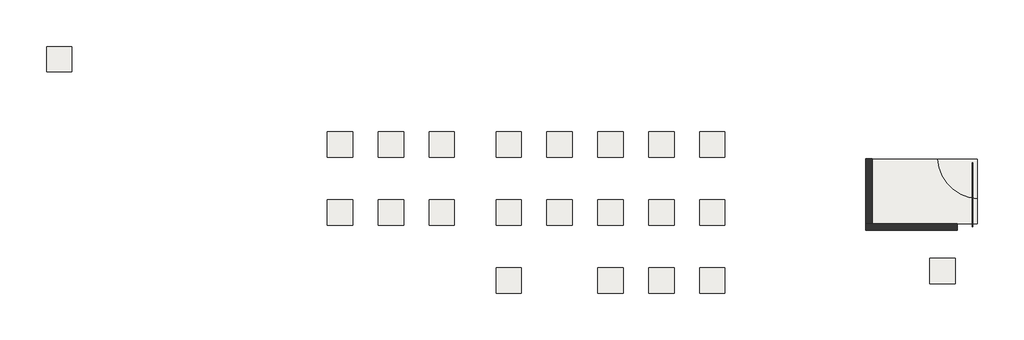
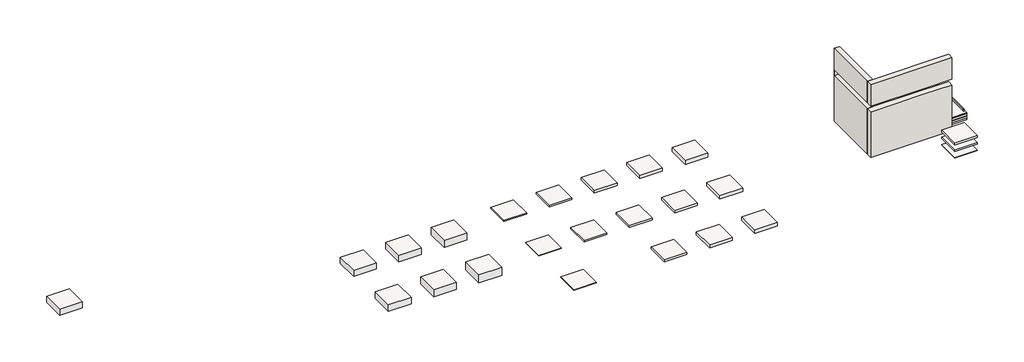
# One storey: 25 slabs, 2 walls, 1 beam.
"""IFC4 building model written with IfcOpenShell, lengths in millimetres."""

from ifc_helpers import new_model, si_unit, point, frame, frame_2d, origin, place, context, project, spatial, polyline, circle_curve, trimmed, segment, composite_curve, outline, extrude, faceted_brep, transform, mapped, element, save
from ifc_brep_helpers import plane_surface, revolved_surface, advanced_brep
from components import beam_a5dc1c18

model = new_model("IFC4")

# Units and contexts
model_context = context("Model", 3, world=origin())
ifc_project = project(units=[si_unit("LENGTHUNIT", "METRE", prefix="MILLI")], contexts=[model_context])

# Site, building, storey
site = spatial("IfcSite", under=ifc_project)
building = spatial("IfcBuilding", under=site)
storey = spatial("IfcBuildingStorey", under=building, Name="Этаж 1", Elevation=0.0)

# Beam
placement = place(None, origin())
beam_shape = beam_a5dc1c18(model_context)
element("IfcBeam", 1, ObjectType="Мерные пиломатериалы : 50х150 мм", at=placement, inside=storey, context=model_context, shape_type="MappedRepresentation", body=[
    mapped(beam_shape, transform((43167.721519, 1871.7721519, 387.0), x_axis=(0.0, -1.0, 0.0), y_axis=(1.0, 0.0, 0.0), z_axis=(0.0, 0.0, 1.0))),
])

# Slabs
element("IfcSlab", 2, ObjectType="Пол по ж/б стяжке на бетонной плите 414мм (Изоляция ЭКОВЕР СТЭП ОПТИМА 100мм)", at=placement, inside=storey, context=model_context, shape_type="SweptSolid", body=[
    extrude(outline(polyline([(6615.16299, 4075.2600032), (5115.16299, 4075.2600032), (5115.16299, 5575.2600032), (6615.16299, 5575.2600032), (6615.16299, 4075.2600032)])), frame((0.0, 0.0, -414.0), z_axis=(0.0, 0.0, 1.0), x_axis=(1.0, 0.0, 0.0)), (0.0, 0.0, 1.0), 414.0),
])
element("IfcSlab", 3, ObjectType="Утеплитель 40мм (ЭКОВЕР СТЭП ОПТИМА)", at=placement, inside=storey, context=model_context, shape_type="SweptSolid", body=[
    extrude(outline(polyline([(16566.9918196, 4065.4079035), (15066.9918196, 4065.4079035), (15066.9918196, 5565.4079035), (16566.9918196, 5565.4079035), (16566.9918196, 4065.4079035)])), frame((0.0, 0.0, -40.0), z_axis=(0.0, 0.0, 1.0), x_axis=(1.0, 0.0, 0.0)), (0.0, 0.0, 1.0), 40.0),
])
element("IfcSlab", 4, ObjectType="Утеплитель 100мм (ЭКОВЕР СТЭП ОПТИМА)", at=placement, inside=storey, context=model_context, shape_type="SweptSolid", body=[
    extrude(outline(polyline([(19566.9918196, 4065.4079035), (18066.9918196, 4065.4079035), (18066.9918196, 5565.4079035), (19566.9918196, 5565.4079035), (19566.9918196, 4065.4079035)])), frame((0.0, 0.0, -100.0), z_axis=(0.0, 0.0, 1.0), x_axis=(1.0, 0.0, 0.0)), (0.0, 0.0, 1.0), 100.0),
])
element("IfcSlab", 5, ObjectType="Утеплитель 150мм (ЭКОВЕР СТЭП ОПТИМА)", at=placement, inside=storey, context=model_context, shape_type="SweptSolid", body=[
    extrude(outline(polyline([(22566.9918196, 4065.4079035), (21066.9918196, 4065.4079035), (21066.9918196, 5565.4079035), (22566.9918196, 5565.4079035), (22566.9918196, 4065.4079035)])), frame((0.0, 0.0, -150.0), z_axis=(0.0, 0.0, 1.0), x_axis=(1.0, 0.0, 0.0)), (0.0, 0.0, 1.0), 150.0),
])
element("IfcSlab", 6, ObjectType="Утеплитель 200мм (ЭКОВЕР СТЭП ОПТИМА)", at=placement, inside=storey, context=model_context, shape_type="SweptSolid", body=[
    extrude(outline(polyline([(25566.9918196, 4065.4079035), (24066.9918196, 4065.4079035), (24066.9918196, 5565.4079035), (25566.9918196, 5565.4079035), (25566.9918196, 4065.4079035)])), frame((0.0, 0.0, -200.0), z_axis=(0.0, 0.0, 1.0), x_axis=(1.0, 0.0, 0.0)), (0.0, 0.0, 1.0), 200.0),
])
element("IfcSlab", 7, ObjectType="Утеплитель 250мм (ЭКОВЕР СТЭП ОПТИМА)", at=placement, inside=storey, context=model_context, shape_type="SweptSolid", body=[
    extrude(outline(polyline([(28566.9918196, 4065.4079035), (27066.9918196, 4065.4079035), (27066.9918196, 5565.4079035), (28566.9918196, 5565.4079035), (28566.9918196, 4065.4079035)])), frame((0.0, 0.0, -250.0), z_axis=(0.0, 0.0, 1.0), x_axis=(1.0, 0.0, 0.0)), (0.0, 0.0, 1.0), 250.0),
])
element("IfcSlab", 8, ObjectType="Утеплитель 40мм (ЭКОВЕР СТЭП)", at=placement, inside=storey, context=model_context, shape_type="SweptSolid", body=[
    extrude(outline(polyline([(16566.9918196, 65.4079035), (15066.9918196, 65.4079035), (15066.9918196, 1565.4079035), (16566.9918196, 1565.4079035), (16566.9918196, 65.4079035)])), frame((0.0, 0.0, -40.0), z_axis=(0.0, 0.0, 1.0), x_axis=(1.0, 0.0, 0.0)), (0.0, 0.0, 1.0), 40.0),
])
element("IfcSlab", 9, ObjectType="Утеплитель 100мм (ЭКОВЕР СТЭП)", at=placement, inside=storey, context=model_context, shape_type="SweptSolid", body=[
    extrude(outline(polyline([(19566.9918196, 65.4079035), (18066.9918196, 65.4079035), (18066.9918196, 1565.4079035), (19566.9918196, 1565.4079035), (19566.9918196, 65.4079035)])), frame((0.0, 0.0, -100.0), z_axis=(0.0, 0.0, 1.0), x_axis=(1.0, 0.0, 0.0)), (0.0, 0.0, 1.0), 100.0),
])
element("IfcSlab", 10, ObjectType="Утеплитель 150мм (ЭКОВЕР СТЭП)", at=placement, inside=storey, context=model_context, shape_type="SweptSolid", body=[
    extrude(outline(polyline([(22566.9918196, 65.4079035), (21066.9918196, 65.4079035), (21066.9918196, 1565.4079035), (22566.9918196, 1565.4079035), (22566.9918196, 65.4079035)])), frame((0.0, 0.0, -150.0), z_axis=(0.0, 0.0, 1.0), x_axis=(1.0, 0.0, 0.0)), (0.0, 0.0, 1.0), 150.0),
])
element("IfcSlab", 11, ObjectType="Утеплитель 200мм (ЭКОВЕР СТЭП)", at=placement, inside=storey, context=model_context, shape_type="SweptSolid", body=[
    extrude(outline(polyline([(25566.9918196, 65.4079035), (24066.9918196, 65.4079035), (24066.9918196, 1565.4079035), (25566.9918196, 1565.4079035), (25566.9918196, 65.4079035)])), frame((0.0, 0.0, -200.0), z_axis=(0.0, 0.0, 1.0), x_axis=(1.0, 0.0, 0.0)), (0.0, 0.0, 1.0), 200.0),
])
element("IfcSlab", 12, ObjectType="Утеплитель 250мм (ЭКОВЕР СТЭП)", at=placement, inside=storey, context=model_context, shape_type="SweptSolid", body=[
    extrude(outline(polyline([(28566.9918196, 65.4079035), (27066.9918196, 65.4079035), (27066.9918196, 1565.4079035), (28566.9918196, 1565.4079035), (28566.9918196, 65.4079035)])), frame((0.0, 0.0, -250.0), z_axis=(0.0, 0.0, 1.0), x_axis=(1.0, 0.0, 0.0)), (0.0, 0.0, 1.0), 250.0),
])
element("IfcSlab", 13, ObjectType="Утеплитель 40мм (ЭКОВЕР СТЭП ПЛЮС)", at=placement, inside=storey, context=model_context, shape_type="SweptSolid", body=[
    extrude(outline(polyline([(16566.9918196, -3934.5920965), (15066.9918196, -3934.5920965), (15066.9918196, -2434.5920965), (16566.9918196, -2434.5920965), (16566.9918196, -3934.5920965)])), frame((0.0, 0.0, -40.0), z_axis=(0.0, 0.0, 1.0), x_axis=(1.0, 0.0, 0.0)), (0.0, 0.0, 1.0), 40.0),
])
element("IfcSlab", 14, ObjectType="Утеплитель 150мм (ЭКОВЕР СТЭП ПЛЮС)", at=placement, inside=storey, context=model_context, shape_type="SweptSolid", body=[
    extrude(outline(polyline([(22566.9918196, -3934.5920965), (21066.9918196, -3934.5920965), (21066.9918196, -2434.5920965), (22566.9918196, -2434.5920965), (22566.9918196, -3934.5920965)])), frame((0.0, 0.0, -150.0), z_axis=(0.0, 0.0, 1.0), x_axis=(1.0, 0.0, 0.0)), (0.0, 0.0, 1.0), 150.0),
])
element("IfcSlab", 15, ObjectType="Утеплитель 200мм (ЭКОВЕР СТЭП ПЛЮС)", at=placement, inside=storey, context=model_context, shape_type="SweptSolid", body=[
    extrude(outline(polyline([(25566.9918196, -3934.5920965), (24066.9918196, -3934.5920965), (24066.9918196, -2434.5920965), (25566.9918196, -2434.5920965), (25566.9918196, -3934.5920965)])), frame((0.0, 0.0, -200.0), z_axis=(0.0, 0.0, 1.0), x_axis=(1.0, 0.0, 0.0)), (0.0, 0.0, 1.0), 200.0),
])
element("IfcSlab", 16, ObjectType="Утеплитель 250мм (ЭКОВЕР СТЭП ПЛЮС)", at=placement, inside=storey, context=model_context, shape_type="SweptSolid", body=[
    extrude(outline(polyline([(28566.9918196, -3934.5920965), (27066.9918196, -3934.5920965), (27066.9918196, -2434.5920965), (28566.9918196, -2434.5920965), (28566.9918196, -3934.5920965)])), frame((0.0, 0.0, -250.0), z_axis=(0.0, 0.0, 1.0), x_axis=(1.0, 0.0, 0.0)), (0.0, 0.0, 1.0), 250.0),
])
element("IfcSlab", 17, ObjectType="Пол по ж/б стяжке на бетонной плите 414мм (Изоляция ЭКОВЕР СТЭП ОПТИМА 100мм)", at=placement, inside=storey, context=model_context, shape_type="SweptSolid", body=[
    extrude(outline(polyline([(-9943.9642932, 9103.7171322), (-11443.9642932, 9103.7171322), (-11443.9642932, 10603.7171322), (-9943.9642932, 10603.7171322), (-9943.9642932, 9103.7171322)])), frame((0.0, 0.0, -414.0), z_axis=(0.0, 0.0, 1.0), x_axis=(1.0, 0.0, 0.0)), (0.0, 0.0, 1.0), 414.0),
])
element("IfcSlab", 18, ObjectType="Утеплитель 40мм (ЭКОВЕР СТЭП)", at=placement, inside=storey, context=model_context, shape_type="SweptSolid", body=[
    extrude(outline(polyline([(42134.4156835, -1873.1276378), (42134.4156835, -3373.1276378), (40634.4156835, -3373.1276378), (40634.4156835, -1873.1276378), (42134.4156835, -1873.1276378)])), frame((0.0, 0.0, -40.0), z_axis=(0.0, 0.0, 1.0), x_axis=(1.0, 0.0, 0.0)), (0.0, 0.0, 1.0), 40.0),
])
element("IfcSlab", 19, ObjectType="Утеплитель 100мм (ЭКОВЕР СТЭП ОПТИМА)", at=placement, inside=storey, context=model_context, shape_type="SweptSolid", body=[
    extrude(outline(polyline([(42134.4156835, -1873.1276378), (42134.4156835, -3373.1276378), (40634.4156835, -3373.1276378), (40634.4156835, -1873.1276378), (42134.4156835, -1873.1276378)])), frame((0.0, 0.0, 400.0), z_axis=(0.0, 0.0, 1.0), x_axis=(1.0, 0.0, 0.0)), (0.0, 0.0, 1.0), 100.0),
])
element("IfcSlab", 20, ObjectType="Утеплитель 150мм (ЭКОВЕР СТЭП ПЛЮС)", at=placement, inside=storey, context=model_context, shape_type="SweptSolid", body=[
    extrude(outline(polyline([(42134.4156835, -1873.1276378), (42134.4156835, -3373.1276378), (40634.4156835, -3373.1276378), (40634.4156835, -1873.1276378), (42134.4156835, -1873.1276378)])), frame((0.0, 0.0, 850.0), z_axis=(0.0, 0.0, 1.0), x_axis=(1.0, 0.0, 0.0)), (0.0, 0.0, 1.0), 150.0),
])
element("IfcSlab", 21, ObjectType="Пол по ж/б стяжке на бетонной плите 464мм (Изоляция ЭКОВЕР СТЭП 150мм)", at=placement, inside=storey, context=model_context, shape_type="SweptSolid", body=[
    extrude(outline(polyline([(9615.16299, 4075.2600032), (8115.16299, 4075.2600032), (8115.16299, 5575.2600032), (9615.16299, 5575.2600032), (9615.16299, 4075.2600032)])), frame((0.0, 0.0, -464.0), z_axis=(0.0, 0.0, 1.0), x_axis=(1.0, 0.0, 0.0)), (0.0, 0.0, 1.0), 464.0),
])
element("IfcSlab", 22, ObjectType="Пол по ж/б стяжке на бетонной плите 514мм (Изоляция ЭКОВЕР СТЭП ПЛЮС 200мм)", at=placement, inside=storey, context=model_context, shape_type="SweptSolid", body=[
    extrude(outline(polyline([(12615.16299, 4075.2600032), (11115.16299, 4075.2600032), (11115.16299, 5575.2600032), (12615.16299, 5575.2600032), (12615.16299, 4075.2600032)])), frame((0.0, 0.0, -514.0), z_axis=(0.0, 0.0, 1.0), x_axis=(1.0, 0.0, 0.0)), (0.0, 0.0, 1.0), 514.0),
])
element("IfcSlab", 23, ObjectType="Пол по грунту 444мм (Изоляция ЭКОВЕР СТЭП ОПТИМА 100мм)", at=placement, inside=storey, context=model_context, shape_type="SweptSolid", body=[
    extrude(outline(polyline([(6615.16299, 75.2600032), (5115.16299, 75.2600032), (5115.16299, 1575.2600032), (6615.16299, 1575.2600032), (6615.16299, 75.2600032)])), frame((0.0, 0.0, -444.0), z_axis=(0.0, 0.0, 1.0), x_axis=(1.0, 0.0, 0.0)), (0.0, 0.0, 1.0), 444.0),
])
element("IfcSlab", 24, ObjectType="Пол по грунту 494мм (Изоляция ЭКОВЕР СТЭП 150мм)", at=placement, inside=storey, context=model_context, shape_type="SweptSolid", body=[
    extrude(outline(polyline([(9615.16299, 75.2600032), (8115.16299, 75.2600032), (8115.16299, 1575.2600032), (9615.16299, 1575.2600032), (9615.16299, 75.2600032)])), frame((0.0, 0.0, -494.0), z_axis=(0.0, 0.0, 1.0), x_axis=(1.0, 0.0, 0.0)), (0.0, 0.0, 1.0), 494.0),
])
element("IfcSlab", 25, ObjectType="Пол по грунту 544мм (Изоляция ЭКОВЕР СТЭП ПЛЮС 200мм)", at=placement, inside=storey, context=model_context, shape_type="SweptSolid", body=[
    extrude(outline(polyline([(12615.16299, 75.2600032), (11115.16299, 75.2600032), (11115.16299, 1575.2600032), (12615.16299, 1575.2600032), (12615.16299, 75.2600032)])), frame((0.0, 0.0, -544.0), z_axis=(0.0, 0.0, 1.0), x_axis=(1.0, 0.0, 0.0)), (0.0, 0.0, 1.0), 544.0),
])
element("IfcSlab", 26, ObjectType="Пол по грунту 494мм (Изоляция ЭКОВЕР СТЭП 150мм)", at=placement, inside=storey, context=model_context, shape_type="SolidModel", body=[
    extrude(outline(composite_curve([segment(polyline([(41114.7709945, 3961.7721519), (43457.721519, 3961.7721519), (43457.721519, 1618.8216274)]), True, "CONTINUOUS"), segment(trimmed(circle_curve(frame_2d((43610.121519, 4114.1721519)), 2500.0), [point((43457.721519, 1618.8216274))], [point((41114.7709945, 3961.7721519))], False, "CARTESIAN"), True, "CONTINUOUS")], self_intersect=False)), frame((0.0, 0.0, -20.0), z_axis=(0.0, 0.0, 1.0), x_axis=(1.0, 0.0, 0.0)), (0.0, 0.0, 1.0), 20.0),
    advanced_brep(
    [(43457.721519, 1618.8216274, -20.0), (41114.7709945, 3961.7721519, -20.0), (41114.7709945, 3961.7721519, 0.0), (43457.721519, 1618.8216274, 0.0), (37257.721519, 3961.7721519, -20.0), (40397.721519, 3961.7721519, -20.0), (43457.721519, 161.7721519, -20.0), (37257.721519, 161.7721519, -20.0), (37257.721519, 3961.7721519, 0.0), (37257.721519, 161.7721519, 0.0), (43457.721519, 161.7721519, 0.0), (40397.721519, 3961.7721519, 0.0)],
    [
        (0, 1, circle_curve(frame((43610.121519, 4114.1721519, -20.0), z_axis=(0.0, 0.0, -1.0), x_axis=(0.0, -1.0, 0.0)), 2500.0)),
        (1, 2),
        (2, 3, circle_curve(frame((43610.121519, 4114.1721519, 0.0), z_axis=(0.0, 0.0, 1.0), x_axis=(0.0, -1.0, 0.0)), 2500.0)),
        (3, 0),
        (4, 5),
        (5, 1),
        (0, 6),
        (6, 7),
        (7, 4),
        (8, 9),
        (9, 10),
        (10, 3),
        (2, 11),
        (11, 8),
        (4, 8),
        (10, 6),
        (9, 7),
    ],
    [
        revolved_surface(polyline([(43610.121519, 1614.1721519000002, 0.0), (43610.121519, 1614.1721519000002, -20.0)]), (43610.121519, 4114.1721519, 304.8), (0.0, 0.0, 1.0)),
        plane_surface(frame((36877.721519, 3961.7721519, -20.0), z_axis=(0.0, 0.0, -1.0), x_axis=(-1.0, 0.0, 0.0))),
        plane_surface(frame((36877.721519, 3961.7721519, 0.0), z_axis=(0.0, 0.0, 1.0), x_axis=(-1.0, 0.0, 0.0))),
        plane_surface(frame((40397.721519, 3961.7721519, -494.0), z_axis=(0.0, 1.0, 0.0), x_axis=(0.0, 0.0, 1.0))),
        plane_surface(frame((43457.721519, 3961.7721519, -494.0), z_axis=(1.0, 0.0, 0.0), x_axis=(0.0, 0.0, 1.0))),
        plane_surface(frame((43457.721519, 161.7721519, -494.0), z_axis=(0.0, -1.0, 0.0), x_axis=(0.0, 0.0, 1.0))),
        plane_surface(frame((37257.721519, 161.7721519, -494.0), z_axis=(-1.0, 0.0, 0.0), x_axis=(0.0, 0.0, 1.0))),
    ],
    [
        (0, [[1, 2, 3, 4]]),
        (1, [[5, 6, -1, 7, 8, 9]]),
        (2, [[10, 11, 12, -3, 13, 14]]),
        (3, [[-5, 15, -14, -13, -2, -6]]),
        (4, [[16, -7, -4, -12]]),
        (5, [[-8, -16, -11, 17]]),
        (6, [[-9, -17, -10, -15]]),
    ],
),
    extrude(outline(composite_curve([segment(polyline([(41615.9364122, 3961.7721519), (43457.721519, 3961.7721519), (43457.721519, 2119.9870451)]), True, "CONTINUOUS"), segment(trimmed(circle_curve(frame_2d((43610.121519, 4114.1721519)), 2000.0), [point((43457.721519, 2119.9870451))], [point((41615.9364122, 3961.7721519))], False, "CARTESIAN"), True, "CONTINUOUS")], self_intersect=False)), frame((0.0, 0.0, -64.0), z_axis=(0.0, 0.0, 1.0), x_axis=(1.0, 0.0, 0.0)), (0.0, 0.0, 1.0), 40.0),
    advanced_brep(
    [(43457.721519, 2119.9870451, -64.0), (41615.9364122, 3961.7721519, -64.0), (41615.9364122, 3961.7721519, -24.0), (43457.721519, 2119.9870451, -24.0), (37257.721519, 3961.7721519, -64.0), (40397.721519, 3961.7721519, -64.0), (43457.721519, 161.7721519, -64.0), (37257.721519, 161.7721519, -64.0), (37257.721519, 3961.7721519, -24.0), (40397.721519, 3961.7721519, -24.0), (43457.721519, 161.7721519, -24.0), (37257.721519, 161.7721519, -24.0)],
    [
        (0, 1, circle_curve(frame((43610.121519, 4114.1721519, -64.0), z_axis=(0.0, 0.0, -1.0), x_axis=(0.0, -1.0, 0.0)), 2000.0)),
        (1, 2),
        (2, 3, circle_curve(frame((43610.121519, 4114.1721519, -24.0), z_axis=(0.0, 0.0, 1.0), x_axis=(0.0, -1.0, 0.0)), 2000.0)),
        (3, 0),
        (4, 5),
        (5, 1),
        (0, 6),
        (6, 7),
        (7, 4),
        (4, 8),
        (8, 9),
        (9, 2),
        (10, 6),
        (3, 10),
        (10, 11),
        (11, 7),
        (11, 8),
    ],
    [
        revolved_surface(polyline([(43610.121519, 2114.1721519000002, -24.0), (43610.121519, 2114.1721519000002, -64.0)]), (43610.121519, 4114.1721519, 280.8), (0.0, 0.0, 1.0)),
        plane_surface(frame((36877.721519, 3961.7721519, -64.0), z_axis=(0.0, 0.0, -1.0), x_axis=(-1.0, 0.0, 0.0))),
        plane_surface(frame((40397.721519, 3961.7721519, -494.0), z_axis=(0.0, 1.0, 0.0), x_axis=(0.0, 0.0, 1.0))),
        plane_surface(frame((43457.721519, 3961.7721519, -494.0), z_axis=(1.0, 0.0, 0.0), x_axis=(0.0, 0.0, 1.0))),
        plane_surface(frame((43457.721519, 161.7721519, -494.0), z_axis=(0.0, -1.0, 0.0), x_axis=(0.0, 0.0, 1.0))),
        plane_surface(frame((37257.721519, 161.7721519, -494.0), z_axis=(-1.0, 0.0, 0.0), x_axis=(0.0, 0.0, 1.0))),
        plane_surface(frame((36877.721519, 3961.7721519, -24.0), z_axis=(0.0, 0.0, 1.0), x_axis=(-1.0, 0.0, 0.0))),
    ],
    [
        (0, [[1, 2, 3, 4]]),
        (1, [[5, 6, -1, 7, 8, 9]]),
        (2, [[-5, 10, 11, 12, -2, -6]]),
        (3, [[13, -7, -4, 14]]),
        (4, [[-8, -13, 15, 16]]),
        (5, [[-9, -16, 17, -10]]),
        (6, [[-11, -17, -15, -14, -3, -12]]),
    ],
),
    faceted_brep([(43457.721519, 3961.7721519, -494.0), (40397.721519, 3961.7721519, -494.0), (37257.721519, 3961.7721519, -494.0), (37257.721519, 3961.7721519, -394.0), (40397.721519, 3961.7721519, -394.0), (43457.721519, 3961.7721519, -394.0), (43457.721519, 161.7721519, -494.0), (43457.721519, 161.7721519, -394.0), (37257.721519, 161.7721519, -494.0), (37257.721519, 161.7721519, -394.0)], [[[0, 1, 2, 3, 4, 5]], [[6, 0, 5, 7]], [[8, 6, 7, 9]], [[2, 8, 9, 3]], [[4, 3, 9, 7, 5]], [[2, 1, 0, 6, 8]]]),
    extrude(outline(composite_curve([segment(polyline([(41295.1324823, 3961.7721519), (43457.721519, 3961.7721519), (43457.721519, 1799.1831152)]), True, "CONTINUOUS"), segment(trimmed(circle_curve(frame_2d((43610.121519, 4114.1721519)), 2320.0), [point((43457.721519, 1799.1831152))], [point((41295.1324823, 3961.7721519))], False, "CARTESIAN"), True, "CONTINUOUS")], self_intersect=False)), frame((0.0, 0.0, -24.0), z_axis=(0.0, 0.0, 1.0), x_axis=(1.0, 0.0, 0.0)), (0.0, 0.0, 1.0), 4.0),
    advanced_brep(
    [(43457.721519, 1799.1831152, -24.0), (41295.1324823, 3961.7721519, -24.0), (41295.1324823, 3961.7721519, -20.0), (43457.721519, 1799.1831152, -20.0), (37257.721519, 3961.7721519, -24.0), (40397.721519, 3961.7721519, -24.0), (43457.721519, 161.7721519, -24.0), (37257.721519, 161.7721519, -24.0), (37257.721519, 3961.7721519, -20.0), (40397.721519, 3961.7721519, -20.0), (43457.721519, 161.7721519, -20.0), (37257.721519, 161.7721519, -20.0)],
    [
        (0, 1, circle_curve(frame((43610.121519, 4114.1721519, -24.0), z_axis=(0.0, 0.0, -1.0), x_axis=(0.0, -1.0, 0.0)), 2320.0)),
        (1, 2),
        (2, 3, circle_curve(frame((43610.121519, 4114.1721519, -20.0), z_axis=(0.0, 0.0, 1.0), x_axis=(0.0, -1.0, 0.0)), 2320.0)),
        (3, 0),
        (4, 5),
        (5, 1),
        (0, 6),
        (6, 7),
        (7, 4),
        (4, 8),
        (8, 9),
        (9, 2),
        (10, 6),
        (3, 10),
        (10, 11),
        (11, 7),
        (11, 8),
    ],
    [
        revolved_surface(polyline([(43610.121519, 1794.1721519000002, -20.0), (43610.121519, 1794.1721519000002, -24.0)]), (43610.121519, 4114.1721519, 284.8), (0.0, 0.0, 1.0)),
        plane_surface(frame((36877.721519, 3961.7721519, -24.0), z_axis=(0.0, 0.0, -1.0), x_axis=(-1.0, 0.0, 0.0))),
        plane_surface(frame((40397.721519, 3961.7721519, -494.0), z_axis=(0.0, 1.0, 0.0), x_axis=(0.0, 0.0, 1.0))),
        plane_surface(frame((43457.721519, 3961.7721519, -494.0), z_axis=(1.0, 0.0, 0.0), x_axis=(0.0, 0.0, 1.0))),
        plane_surface(frame((43457.721519, 161.7721519, -494.0), z_axis=(0.0, -1.0, 0.0), x_axis=(0.0, 0.0, 1.0))),
        plane_surface(frame((37257.721519, 161.7721519, -494.0), z_axis=(-1.0, 0.0, 0.0), x_axis=(0.0, 0.0, 1.0))),
        plane_surface(frame((36877.721519, 3961.7721519, -20.0), z_axis=(0.0, 0.0, 1.0), x_axis=(-1.0, 0.0, 0.0))),
    ],
    [
        (0, [[1, 2, 3, 4]]),
        (1, [[5, 6, -1, 7, 8, 9]]),
        (2, [[-5, 10, 11, 12, -2, -6]]),
        (3, [[13, -7, -4, 14]]),
        (4, [[-8, -13, 15, 16]]),
        (5, [[-9, -16, 17, -10]]),
        (6, [[-11, -17, -15, -14, -3, -12]]),
    ],
),
    extrude(outline(composite_curve([segment(polyline([(41816.5847226, 3961.7721519), (43457.721519, 3961.7721519), (43457.721519, 2320.6353555)]), True, "CONTINUOUS"), segment(trimmed(circle_curve(frame_2d((43610.121519, 4114.1721519)), 1800.0), [point((43457.721519, 2320.6353555))], [point((41816.5847226, 3961.7721519))], False, "CARTESIAN"), True, "CONTINUOUS")], self_intersect=False)), frame((0.0, 0.0, -214.0), z_axis=(0.0, 0.0, 1.0), x_axis=(1.0, 0.0, 0.0)), (0.0, 0.0, 1.0), 150.0),
    advanced_brep(
    [(43457.721519, 2320.6353555, -214.0), (41816.5847226, 3961.7721519, -214.0), (41816.5847226, 3961.7721519, -64.0), (43457.721519, 2320.6353555, -64.0), (37257.721519, 3961.7721519, -214.0), (40397.721519, 3961.7721519, -214.0), (43457.721519, 161.7721519, -214.0), (37257.721519, 161.7721519, -214.0), (37257.721519, 3961.7721519, -64.0), (40397.721519, 3961.7721519, -64.0), (43457.721519, 161.7721519, -64.0), (37257.721519, 161.7721519, -64.0)],
    [
        (0, 1, circle_curve(frame((43610.121519, 4114.1721519, -214.0), z_axis=(0.0, 0.0, -1.0), x_axis=(0.0, -1.0, 0.0)), 1800.0)),
        (1, 2),
        (2, 3, circle_curve(frame((43610.121519, 4114.1721519, -64.0), z_axis=(0.0, 0.0, 1.0), x_axis=(0.0, -1.0, 0.0)), 1800.0)),
        (3, 0),
        (4, 5),
        (5, 1),
        (0, 6),
        (6, 7),
        (7, 4),
        (4, 8),
        (8, 9),
        (9, 2),
        (10, 6),
        (3, 10),
        (10, 11),
        (11, 7),
        (11, 8),
    ],
    [
        revolved_surface(polyline([(43610.121519, 2314.1721519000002, -64.0), (43610.121519, 2314.1721519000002, -214.0)]), (43610.121519, 4114.1721519, 240.8), (0.0, 0.0, 1.0)),
        plane_surface(frame((36877.721519, 3961.7721519, -214.0), z_axis=(0.0, 0.0, -1.0), x_axis=(-1.0, 0.0, 0.0))),
        plane_surface(frame((40397.721519, 3961.7721519, -494.0), z_axis=(0.0, 1.0, 0.0), x_axis=(0.0, 0.0, 1.0))),
        plane_surface(frame((43457.721519, 3961.7721519, -494.0), z_axis=(1.0, 0.0, 0.0), x_axis=(0.0, 0.0, 1.0))),
        plane_surface(frame((43457.721519, 161.7721519, -494.0), z_axis=(0.0, -1.0, 0.0), x_axis=(0.0, 0.0, 1.0))),
        plane_surface(frame((37257.721519, 161.7721519, -494.0), z_axis=(-1.0, 0.0, 0.0), x_axis=(0.0, 0.0, 1.0))),
        plane_surface(frame((36877.721519, 3961.7721519, -64.0), z_axis=(0.0, 0.0, 1.0), x_axis=(-1.0, 0.0, 0.0))),
    ],
    [
        (0, [[1, 2, 3, 4]]),
        (1, [[5, 6, -1, 7, 8, 9]]),
        (2, [[-5, 10, 11, 12, -2, -6]]),
        (3, [[13, -7, -4, 14]]),
        (4, [[-8, -13, 15, 16]]),
        (5, [[-9, -16, 17, -10]]),
        (6, [[-11, -17, -15, -14, -3, -12]]),
    ],
),
    extrude(outline(composite_curve([segment(polyline([(41997.3058941, 3961.7721519), (43457.721519, 3961.7721519), (43457.721519, 2501.356527)]), True, "CONTINUOUS"), segment(trimmed(circle_curve(frame_2d((43610.121519, 4114.1721519)), 1620.0), [point((43457.721519, 2501.356527))], [point((41997.3058941, 3961.7721519))], False, "CARTESIAN"), True, "CONTINUOUS")], self_intersect=False)), frame((0.0, 0.0, -244.0), z_axis=(0.0, 0.0, 1.0), x_axis=(1.0, 0.0, 0.0)), (0.0, 0.0, 1.0), 30.0),
    advanced_brep(
    [(41997.3058941, 3961.7721519, -244.0), (41997.3058941, 3961.7721519, -214.0), (43457.721519, 2501.356527, -214.0), (43457.721519, 2501.356527, -244.0), (40397.721519, 3961.7721519, -244.0), (37257.721519, 3961.7721519, -244.0), (37257.721519, 3961.7721519, -214.0), (40397.721519, 3961.7721519, -214.0), (43457.721519, 161.7721519, -214.0), (43457.721519, 161.7721519, -244.0), (37257.721519, 161.7721519, -214.0), (37257.721519, 161.7721519, -244.0)],
    [
        (0, 1),
        (1, 2, circle_curve(frame((43610.121519, 4114.1721519, -214.0), z_axis=(0.0, 0.0, 1.0), x_axis=(0.0, -1.0, 0.0)), 1620.0)),
        (2, 3),
        (3, 0, circle_curve(frame((43610.121519, 4114.1721519, -244.0), z_axis=(0.0, 0.0, -1.0), x_axis=(0.0, -1.0, 0.0)), 1620.0)),
        (4, 5),
        (5, 6),
        (6, 7),
        (7, 1),
        (0, 4),
        (8, 9),
        (9, 3),
        (2, 8),
        (8, 10),
        (10, 11),
        (11, 9),
        (5, 11),
        (10, 6),
    ],
    [
        revolved_surface(polyline([(43610.121519, 2494.1721519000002, -214.0), (43610.121519, 2494.1721519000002, -244.0)]), (43610.121519, 4114.1721519, 90.8), (0.0, 0.0, 1.0)),
        plane_surface(frame((40397.721519, 3961.7721519, -494.0), z_axis=(0.0, 1.0, 0.0), x_axis=(0.0, 0.0, 1.0))),
        plane_surface(frame((43457.721519, 3961.7721519, -494.0), z_axis=(1.0, 0.0, 0.0), x_axis=(0.0, 0.0, 1.0))),
        plane_surface(frame((43457.721519, 161.7721519, -494.0), z_axis=(0.0, -1.0, 0.0), x_axis=(0.0, 0.0, 1.0))),
        plane_surface(frame((37257.721519, 161.7721519, -494.0), z_axis=(-1.0, 0.0, 0.0), x_axis=(0.0, 0.0, 1.0))),
        plane_surface(frame((36877.721519, 3961.7721519, -214.0), z_axis=(0.0, 0.0, 1.0), x_axis=(-1.0, 0.0, 0.0))),
        plane_surface(frame((36877.721519, 3961.7721519, -244.0), z_axis=(0.0, 0.0, -1.0), x_axis=(-1.0, 0.0, 0.0))),
    ],
    [
        (0, [[1, 2, 3, 4]]),
        (1, [[5, 6, 7, 8, -1, 9]]),
        (2, [[10, 11, -3, 12]]),
        (3, [[-10, 13, 14, 15]]),
        (4, [[-6, 16, -14, 17]]),
        (5, [[-7, -17, -13, -12, -2, -8]]),
        (6, [[-5, -9, -4, -11, -15, -16]]),
    ],
),
    extrude(outline(composite_curve([segment(polyline([(42077.6809035, 3961.7721519), (43457.721519, 3961.7721519), (43457.721519, 2581.7315364)]), True, "CONTINUOUS"), segment(trimmed(circle_curve(frame_2d((43610.121519, 4114.1721519)), 1540.0), [point((43457.721519, 2581.7315364))], [point((42077.6809035, 3961.7721519))], False, "CARTESIAN"), True, "CONTINUOUS")], self_intersect=False)), frame((0.0, 0.0, -394.0), z_axis=(0.0, 0.0, 1.0), x_axis=(1.0, 0.0, 0.0)), (0.0, 0.0, 1.0), 150.0),
    advanced_brep(
    [(43457.721519, 2581.7315364, -394.0), (42077.6809035, 3961.7721519, -394.0), (42077.6809035, 3961.7721519, -244.0), (43457.721519, 2581.7315364, -244.0), (37257.721519, 3961.7721519, -394.0), (40397.721519, 3961.7721519, -394.0), (43457.721519, 161.7721519, -394.0), (37257.721519, 161.7721519, -394.0), (37257.721519, 3961.7721519, -244.0), (40397.721519, 3961.7721519, -244.0), (43457.721519, 161.7721519, -244.0), (37257.721519, 161.7721519, -244.0)],
    [
        (0, 1, circle_curve(frame((43610.121519, 4114.1721519, -394.0), z_axis=(0.0, 0.0, -1.0), x_axis=(0.0, -1.0, 0.0)), 1540.0)),
        (1, 2),
        (2, 3, circle_curve(frame((43610.121519, 4114.1721519, -244.0), z_axis=(0.0, 0.0, 1.0), x_axis=(0.0, -1.0, 0.0)), 1540.0)),
        (3, 0),
        (4, 5),
        (5, 1),
        (0, 6),
        (6, 7),
        (7, 4),
        (4, 8),
        (8, 9),
        (9, 2),
        (10, 6),
        (3, 10),
        (10, 11),
        (11, 7),
        (11, 8),
    ],
    [
        revolved_surface(polyline([(43610.121519, 2574.1721519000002, -244.0), (43610.121519, 2574.1721519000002, -394.0)]), (43610.121519, 4114.1721519, 60.8), (0.0, 0.0, 1.0)),
        plane_surface(frame((36877.721519, 3961.7721519, -394.0), z_axis=(0.0, 0.0, -1.0), x_axis=(-1.0, 0.0, 0.0))),
        plane_surface(frame((40397.721519, 3961.7721519, -494.0), z_axis=(0.0, 1.0, 0.0), x_axis=(0.0, 0.0, 1.0))),
        plane_surface(frame((43457.721519, 3961.7721519, -494.0), z_axis=(1.0, 0.0, 0.0), x_axis=(0.0, 0.0, 1.0))),
        plane_surface(frame((43457.721519, 161.7721519, -494.0), z_axis=(0.0, -1.0, 0.0), x_axis=(0.0, 0.0, 1.0))),
        plane_surface(frame((37257.721519, 161.7721519, -494.0), z_axis=(-1.0, 0.0, 0.0), x_axis=(0.0, 0.0, 1.0))),
        plane_surface(frame((36877.721519, 3961.7721519, -244.0), z_axis=(0.0, 0.0, 1.0), x_axis=(-1.0, 0.0, 0.0))),
    ],
    [
        (0, [[1, 2, 3, 4]]),
        (1, [[5, 6, -1, 7, 8, 9]]),
        (2, [[-5, 10, 11, 12, -2, -6]]),
        (3, [[13, -7, -4, 14]]),
        (4, [[-8, -13, 15, 16]]),
        (5, [[-9, -16, 17, -10]]),
        (6, [[-11, -17, -15, -14, -3, -12]]),
    ],
),
])

# Walls
element("IfcWall", 27, ObjectType="Кирпич 380", at=placement, inside=storey, context=model_context, shape_type="Brep", body=[
    faceted_brep([(37257.721519, 3971.7721519, -600.0), (37257.721519, 161.7721519, -600.0), (36877.721519, 161.7721519, -600.0), (36877.721519, 3971.7721519, -600.0), (37257.721519, 161.7721519, 4500.0), (37257.721519, 3971.7721519, 4500.0), (36877.721519, 3971.7721519, 4500.0), (36877.721519, 161.7721519, 4500.0), (37257.721519, 161.7721519, 0.0), (37257.721519, 161.7721519, 2586.0), (36877.721519, 161.7721519, 2586.0), (37257.721519, 161.7721519, -494.0), (37257.721519, 161.7721519, 3000.0), (37257.721519, 3961.7721519, 3000.0), (37257.721519, 3961.7721519, 2586.0), (36877.721519, 3961.7721519, 2586.0), (36877.721519, 3961.7721519, 3000.0), (36877.721519, 161.7721519, 3000.0)], [[[0, 1, 2, 3]], [[4, 5, 6, 7]], [[8, 9, 10, 2, 1, 11]], [[1, 0, 5, 4, 12, 13, 14, 9, 8, 11]], [[3, 2, 10, 15, 16, 17, 7, 6]], [[13, 12, 17, 16]], [[12, 4, 7, 17]], [[5, 0, 3, 6]], [[14, 13, 16, 15]], [[9, 14, 15, 10]]]),
])
element("IfcWall", 28, ObjectType="Кирпич 380", at=placement, inside=storey, context=model_context, shape_type="Brep", body=[
    faceted_brep([(42267.721519, 161.7721519, -600.0), (37257.721519, 161.7721519, -600.0), (36877.721519, 161.7721519, -600.0), (36877.721519, 161.7721519, 2586.0), (37257.721519, 161.7721519, 2586.0), (42267.721519, 161.7721519, 2586.0), (36877.721519, -218.2278481, -600.0), (42267.721519, -218.2278481, -600.0), (42267.721519, -218.2278481, 2586.0), (40397.721519, -218.2278481, 2586.0), (36877.721519, -218.2278481, 2586.0)], [[[0, 1, 2, 3, 4, 5]], [[6, 7, 8, 9, 10]], [[2, 1, 0, 7, 6]], [[7, 0, 5, 8]], [[2, 6, 10, 3]], [[5, 4, 3, 10, 9, 8]]]),
    faceted_brep([(36877.721519, 161.7721519, 4500.0), (37257.721519, 161.7721519, 4500.0), (42267.721519, 161.7721519, 4500.0), (42267.721519, 161.7721519, 3000.0), (37257.721519, 161.7721519, 3000.0), (36877.721519, 161.7721519, 3000.0), (42267.721519, -218.2278481, 4500.0), (36877.721519, -218.2278481, 4500.0), (36877.721519, -218.2278481, 3000.0), (40397.721519, -218.2278481, 3000.0), (42267.721519, -218.2278481, 3000.0)], [[[0, 1, 2, 3, 4, 5]], [[6, 7, 8, 9, 10]], [[2, 1, 0, 7, 6]], [[2, 6, 10, 3]], [[7, 0, 5, 8]], [[5, 4, 3, 10, 9, 8]]]),
])

save(model, "model.ifc")
